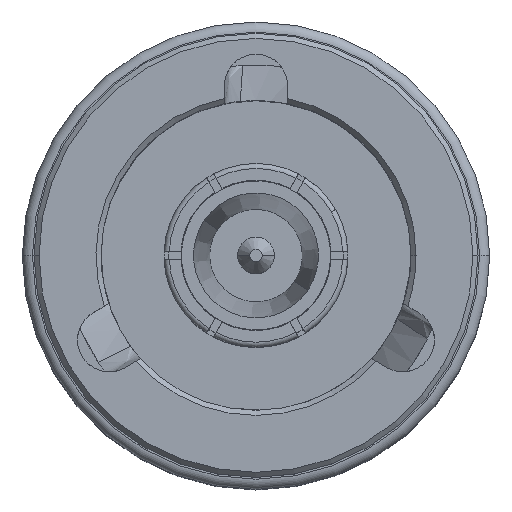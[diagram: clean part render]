
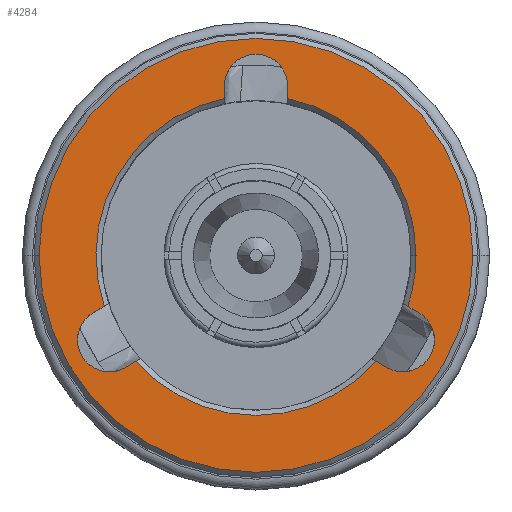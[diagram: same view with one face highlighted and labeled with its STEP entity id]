
A CAD part, top view. The second image highlights one B-rep face of the part: STEP entity #4284.
In plain terms, the highlighted planar face has unit normal (0, 0, 1).
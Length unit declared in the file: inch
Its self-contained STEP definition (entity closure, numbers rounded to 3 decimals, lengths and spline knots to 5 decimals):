
#209 = DIRECTION ( 'NONE',  ( 0., 0., 1. ) ) ;
#286 = AXIS2_PLACEMENT_3D ( 'NONE', #5928, #4567, #3839 ) ;
#295 = CARTESIAN_POINT ( 'NONE',  ( 0.11806, -0.10425, 0.2855 ) ) ;
#322 = CIRCLE ( 'NONE', #3761, 0.2135 ) ;
#342 = ORIENTED_EDGE ( 'NONE', *, *, #4839, .F. ) ;
#344 = CARTESIAN_POINT ( 'NONE',  ( -0.03125, 0.145, 0.2855 ) ) ;
#449 = DIRECTION ( 'NONE',  ( 0.866, 0.5, 0. ) ) ;
#469 = CARTESIAN_POINT ( 'NONE',  ( -0.14441, -0.08338, 0.2855 ) ) ;
#546 = LINE ( 'NONE', #7365, #7448 ) ;
#643 = ORIENTED_EDGE ( 'NONE', *, *, #7211, .F. ) ;
#719 = VECTOR ( 'NONE', #8732, 39.37008 ) ;
#796 = VECTOR ( 'NONE', #1642, 39.37008 ) ;
#815 = CARTESIAN_POINT ( 'NONE',  ( 0.14441, -0.08337, 0.2855 ) ) ;
#929 = LINE ( 'NONE', #3234, #2255 ) ;
#1013 = LINE ( 'NONE', #5530, #796 ) ;
#1106 = ORIENTED_EDGE ( 'NONE', *, *, #6696, .T. ) ;
#1111 = EDGE_CURVE ( 'NONE', #2291, #6554, #322, .T. ) ;
#1179 = DIRECTION ( 'NONE',  ( -1., 0., 0. ) ) ;
#1270 = DIRECTION ( 'NONE',  ( 0., 0., -1. ) ) ;
#1345 = CARTESIAN_POINT ( 'NONE',  ( 0.03125, 0.15437, 0.2855 ) ) ;
#1397 = CARTESIAN_POINT ( 'NONE',  ( 0.1575, 0., 0.2855 ) ) ;
#1515 = AXIS2_PLACEMENT_3D ( 'NONE', #469, #7456, #8171 ) ;
#1521 = VERTEX_POINT ( 'NONE', #7960 ) ;
#1593 = DIRECTION ( 'NONE',  ( 0., 0., 1. ) ) ;
#1642 = DIRECTION ( 'NONE',  ( 0., 1., 0. ) ) ;
#1693 = VERTEX_POINT ( 'NONE', #295 ) ;
#1697 = AXIS2_PLACEMENT_3D ( 'NONE', #4850, #1270, #3441 ) ;
#1743 = CARTESIAN_POINT ( 'NONE',  ( 0.14931, -0.05012, 0.2855 ) ) ;
#1767 = DIRECTION ( 'NONE',  ( -0.866, -0.5, 0. ) ) ;
#1910 = DIRECTION ( 'NONE',  ( 0., 0., -1. ) ) ;
#2038 = VERTEX_POINT ( 'NONE', #1345 ) ;
#2057 = ORIENTED_EDGE ( 'NONE', *, *, #4696, .F. ) ;
#2126 = VECTOR ( 'NONE', #1767, 39.37008 ) ;
#2178 = EDGE_CURVE ( 'NONE', #7903, #3760, #5367, .T. ) ;
#2245 = ORIENTED_EDGE ( 'NONE', *, *, #2500, .F. ) ;
#2255 = VECTOR ( 'NONE', #6664, 39.37008 ) ;
#2281 = AXIS2_PLACEMENT_3D ( 'NONE', #6447, #7159, #2941 ) ;
#2291 = VERTEX_POINT ( 'NONE', #6172 ) ;
#2479 = VERTEX_POINT ( 'NONE', #7828 ) ;
#2500 = EDGE_CURVE ( 'NONE', #2880, #7951, #546, .T. ) ;
#2547 = CARTESIAN_POINT ( 'NONE',  ( 0., 0., 0.2855 ) ) ;
#2618 = CIRCLE ( 'NONE', #5531, 0.1575 ) ;
#2640 = EDGE_CURVE ( 'NONE', #1693, #7951, #2618, .T. ) ;
#2706 = CARTESIAN_POINT ( 'NONE',  ( 0.12878, -0.11044, 0.2855 ) ) ;
#2734 = EDGE_LOOP ( 'NONE', ( #1106, #4379, #6264, #5405, #342, #5146, #4152, #2245, #4459, #2915, #3555, #643, #2057, #6636 ) ) ;
#2776 = AXIS2_PLACEMENT_3D ( 'NONE', #2547, #1910, #8206 ) ;
#2805 = VERTEX_POINT ( 'NONE', #2706 ) ;
#2864 = VECTOR ( 'NONE', #4175, 39.37008 ) ;
#2880 = VERTEX_POINT ( 'NONE', #3520 ) ;
#2915 = ORIENTED_EDGE ( 'NONE', *, *, #7986, .F. ) ;
#2941 = DIRECTION ( 'NONE',  ( -1., 0., 0. ) ) ;
#2985 = CARTESIAN_POINT ( 'NONE',  ( 0., 0., 0.2855 ) ) ;
#3094 = PLANE ( 'NONE',  #286 ) ;
#3101 = CARTESIAN_POINT ( 'NONE',  ( 0.14441, -0.08337, 0.2855 ) ) ;
#3138 = DIRECTION ( 'NONE',  ( 0.5, 0.866, 0. ) ) ;
#3189 = CIRCLE ( 'NONE', #2776, 0.1575 ) ;
#3234 = CARTESIAN_POINT ( 'NONE',  ( -0.11024, 0.02756, 0.2855 ) ) ;
#3244 = VERTEX_POINT ( 'NONE', #7720 ) ;
#3441 = DIRECTION ( 'NONE',  ( -1., 0., 0. ) ) ;
#3520 = CARTESIAN_POINT ( 'NONE',  ( -0.12878, -0.11044, 0.2855 ) ) ;
#3555 = ORIENTED_EDGE ( 'NONE', *, *, #8169, .T. ) ;
#3742 = FACE_OUTER_BOUND ( 'NONE', #7536, .T. ) ;
#3760 = VERTEX_POINT ( 'NONE', #1743 ) ;
#3761 = AXIS2_PLACEMENT_3D ( 'NONE', #8779, #8877, #8185 ) ;
#3776 = CIRCLE ( 'NONE', #2281, 0.03125 ) ;
#3839 = DIRECTION ( 'NONE',  ( -1., 0., 0. ) ) ;
#3942 = EDGE_CURVE ( 'NONE', #3244, #3760, #6167, .T. ) ;
#4041 = EDGE_CURVE ( 'NONE', #2038, #4884, #1013, .T. ) ;
#4129 = CARTESIAN_POINT ( 'NONE',  ( -0.14931, -0.05012, 0.2855 ) ) ;
#4152 = ORIENTED_EDGE ( 'NONE', *, *, #2640, .T. ) ;
#4175 = DIRECTION ( 'NONE',  ( -0.866, 0.5, 0. ) ) ;
#4258 = CARTESIAN_POINT ( 'NONE',  ( 0.1412, -0.04544, 0.2855 ) ) ;
#4284 = ADVANCED_FACE ( 'NONE', ( #3742, #6271 ), #3094, .F. ) ;
#4339 = DIRECTION ( 'NONE',  ( 0.5, 0.866, 0. ) ) ;
#4376 = DIRECTION ( 'NONE',  ( 0., 0., -1. ) ) ;
#4379 = ORIENTED_EDGE ( 'NONE', *, *, #2178, .T. ) ;
#4441 = DIRECTION ( 'NONE',  ( -1., 0., 0. ) ) ;
#4459 = ORIENTED_EDGE ( 'NONE', *, *, #8938, .F. ) ;
#4567 = DIRECTION ( 'NONE',  ( 0., 0., -1. ) ) ;
#4581 = CARTESIAN_POINT ( 'NONE',  ( -0.1412, -0.04544, 0.2855 ) ) ;
#4670 = CARTESIAN_POINT ( 'NONE',  ( 0.03125, 0.16675, 0.2855 ) ) ;
#4676 = EDGE_CURVE ( 'NONE', #8495, #3244, #6525, .T. ) ;
#4696 = EDGE_CURVE ( 'NONE', #4884, #1521, #3776, .T. ) ;
#4839 = EDGE_CURVE ( 'NONE', #2805, #8495, #5302, .T. ) ;
#4850 = CARTESIAN_POINT ( 'NONE',  ( 0., 0., 0.2855 ) ) ;
#4884 = VERTEX_POINT ( 'NONE', #4670 ) ;
#4976 = EDGE_CURVE ( 'NONE', #2805, #1693, #929, .T. ) ;
#5053 = ORIENTED_EDGE ( 'NONE', *, *, #1111, .T. ) ;
#5127 = DIRECTION ( 'NONE',  ( -1., 0., 0. ) ) ;
#5140 = CARTESIAN_POINT ( 'NONE',  ( 0.2135, 0., 0.2855 ) ) ;
#5146 = ORIENTED_EDGE ( 'NONE', *, *, #4976, .T. ) ;
#5186 = CARTESIAN_POINT ( 'NONE',  ( -0.11806, -0.10425, 0.2855 ) ) ;
#5208 = VERTEX_POINT ( 'NONE', #8274 ) ;
#5302 = CIRCLE ( 'NONE', #8229, 0.03125 ) ;
#5367 = CIRCLE ( 'NONE', #9077, 0.1575 ) ;
#5394 = AXIS2_PLACEMENT_3D ( 'NONE', #5898, #1593, #4441 ) ;
#5405 = ORIENTED_EDGE ( 'NONE', *, *, #4676, .F. ) ;
#5413 = VERTEX_POINT ( 'NONE', #4129 ) ;
#5416 = CARTESIAN_POINT ( 'NONE',  ( 0., 0., 0.2855 ) ) ;
#5445 = DIRECTION ( 'NONE',  ( 0., 0., -1. ) ) ;
#5501 = EDGE_CURVE ( 'NONE', #6554, #2291, #8801, .T. ) ;
#5530 = CARTESIAN_POINT ( 'NONE',  ( 0.03125, 0.145, 0.2855 ) ) ;
#5531 = AXIS2_PLACEMENT_3D ( 'NONE', #5416, #5445, #1179 ) ;
#5898 = CARTESIAN_POINT ( 'NONE',  ( 0., 0., 0.2855 ) ) ;
#5922 = LINE ( 'NONE', #4581, #2126 ) ;
#5928 = CARTESIAN_POINT ( 'NONE',  ( 0., 0.2185, 0.2855 ) ) ;
#5966 = CARTESIAN_POINT ( 'NONE',  ( 0.17566, -0.08337, 0.2855 ) ) ;
#6130 = CIRCLE ( 'NONE', #1515, 0.03125 ) ;
#6167 = LINE ( 'NONE', #4258, #2864 ) ;
#6172 = CARTESIAN_POINT ( 'NONE',  ( -0.2135, 0., 0.2855 ) ) ;
#6264 = ORIENTED_EDGE ( 'NONE', *, *, #3942, .F. ) ;
#6271 = FACE_BOUND ( 'NONE', #2734, .T. ) ;
#6447 = CARTESIAN_POINT ( 'NONE',  ( 0., 0.16675, 0.2855 ) ) ;
#6489 = CIRCLE ( 'NONE', #1697, 0.1575 ) ;
#6525 = CIRCLE ( 'NONE', #7454, 0.03125 ) ;
#6554 = VERTEX_POINT ( 'NONE', #5140 ) ;
#6636 = ORIENTED_EDGE ( 'NONE', *, *, #4041, .F. ) ;
#6638 = DIRECTION ( 'NONE',  ( 0., 0., 1. ) ) ;
#6664 = DIRECTION ( 'NONE',  ( -0.866, 0.5, 0. ) ) ;
#6696 = EDGE_CURVE ( 'NONE', #2038, #7903, #3189, .T. ) ;
#7159 = DIRECTION ( 'NONE',  ( 0., 0., 1. ) ) ;
#7211 = EDGE_CURVE ( 'NONE', #1521, #5208, #8401, .T. ) ;
#7365 = CARTESIAN_POINT ( 'NONE',  ( -0.10995, -0.09956, 0.2855 ) ) ;
#7448 = VECTOR ( 'NONE', #449, 39.37008 ) ;
#7454 = AXIS2_PLACEMENT_3D ( 'NONE', #815, #209, #4339 ) ;
#7456 = DIRECTION ( 'NONE',  ( 0., 0., 1. ) ) ;
#7536 = EDGE_LOOP ( 'NONE', ( #5053, #8291 ) ) ;
#7720 = CARTESIAN_POINT ( 'NONE',  ( 0.16003, -0.05631, 0.2855 ) ) ;
#7828 = CARTESIAN_POINT ( 'NONE',  ( -0.16003, -0.05631, 0.2855 ) ) ;
#7903 = VERTEX_POINT ( 'NONE', #1397 ) ;
#7951 = VERTEX_POINT ( 'NONE', #5186 ) ;
#7960 = CARTESIAN_POINT ( 'NONE',  ( -0.03125, 0.16675, 0.2855 ) ) ;
#7986 = EDGE_CURVE ( 'NONE', #5413, #2479, #5922, .T. ) ;
#8169 = EDGE_CURVE ( 'NONE', #5413, #5208, #6489, .T. ) ;
#8171 = DIRECTION ( 'NONE',  ( 0.5, -0.866, 0. ) ) ;
#8185 = DIRECTION ( 'NONE',  ( -1., 0., 0. ) ) ;
#8206 = DIRECTION ( 'NONE',  ( -1., 0., 0. ) ) ;
#8229 = AXIS2_PLACEMENT_3D ( 'NONE', #3101, #6638, #3138 ) ;
#8274 = CARTESIAN_POINT ( 'NONE',  ( -0.03125, 0.15437, 0.2855 ) ) ;
#8291 = ORIENTED_EDGE ( 'NONE', *, *, #5501, .T. ) ;
#8401 = LINE ( 'NONE', #344, #719 ) ;
#8495 = VERTEX_POINT ( 'NONE', #5966 ) ;
#8732 = DIRECTION ( 'NONE',  ( 0., -1., 0. ) ) ;
#8779 = CARTESIAN_POINT ( 'NONE',  ( 0., 0., 0.2855 ) ) ;
#8801 = CIRCLE ( 'NONE', #5394, 0.2135 ) ;
#8877 = DIRECTION ( 'NONE',  ( 0., 0., 1. ) ) ;
#8938 = EDGE_CURVE ( 'NONE', #2479, #2880, #6130, .T. ) ;
#9077 = AXIS2_PLACEMENT_3D ( 'NONE', #2985, #4376, #5127 ) ;
